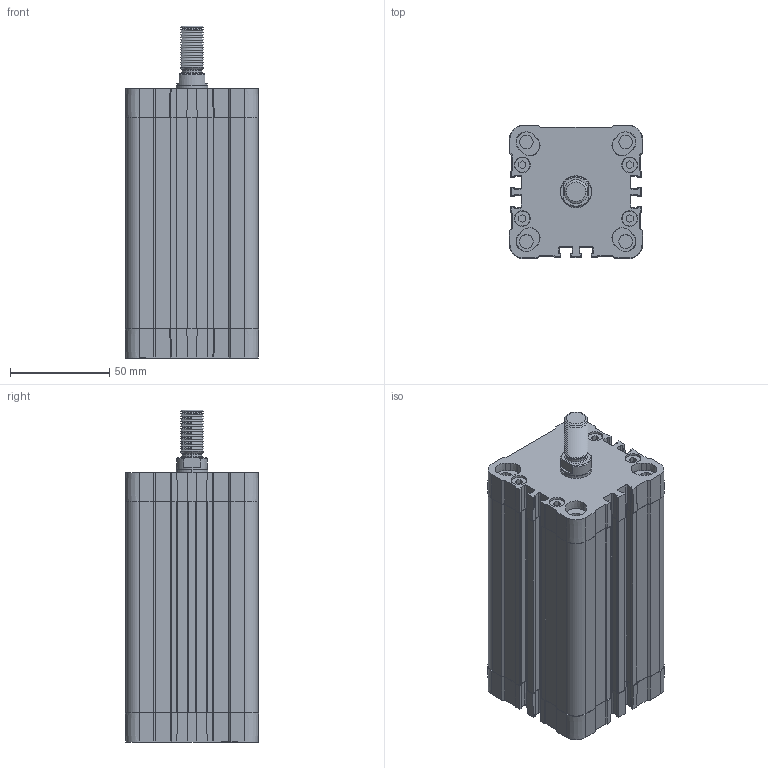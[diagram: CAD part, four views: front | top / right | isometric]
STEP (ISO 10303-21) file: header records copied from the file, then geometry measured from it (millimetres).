
FILE_DESCRIPTION (( 'STEP AP203' ), '1' );
FILE_NAME ('NSKU050.0090 M.STEP', '2011-10-10T13:42:35', ( 'Vesta Automation srl' ), ( 'Vesta Automation srl' ), 'SwSTEP 2.0', 'SolidWorks 2009', '' );
FILE_SCHEMA (( 'CONFIG_CONTROL_DESIGN' ));
Length unit declared in the file: millimetre
Products named in the file (5): PISTON ROD-NSKU 050 M_STROKE 0090; NSKU050.0090 M; FRONT END CAP-NSKU 50; REAR END CAP-NSKU 50; BARREL-NSKU50_STROKE 0090
Assembly tree (4 placements, depth 2):
  NSKU050.0090 M
    PISTON ROD-NSKU 050 M_STROKE 0090
    REAR END CAP-NSKU 50
    FRONT END CAP-NSKU 50
    BARREL-NSKU50_STROKE 0090
Bounding box: 67 x 67 x 167 mm (x, y, z)
Volume: 381746.5 mm3; surface area: 113859.4 mm2
Topology: 4 solids, 4 shells, 1219 faces, 3145 edges, 2004 vertices
Faces by surface type: plane 614, cone 340, cylinder 261, torus 4
Entity records: 37532 total; most frequent: CARTESIAN_POINT 6563, DIRECTION 6559, ORIENTED_EDGE 6258, EDGE_CURVE 3129, AXIS2_PLACEMENT_3D 2272, VECTOR 2015, LINE 2015, VERTEX_POINT 2004
